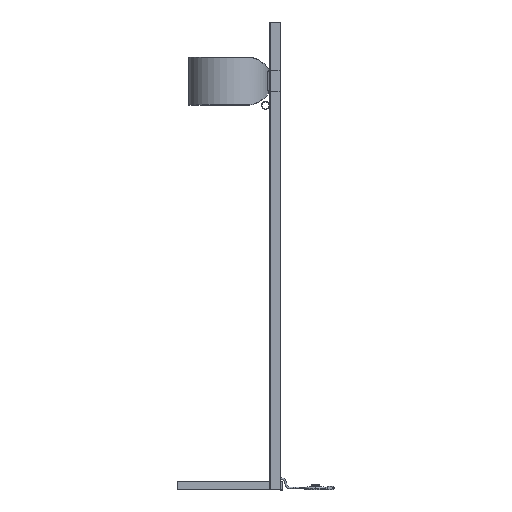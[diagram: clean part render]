
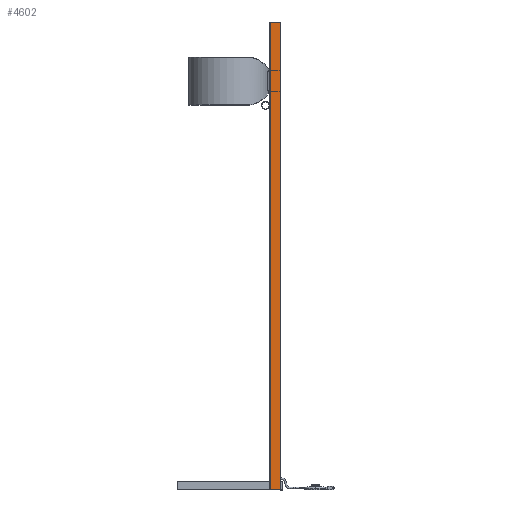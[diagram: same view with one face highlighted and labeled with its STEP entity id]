
A CAD part, left-side view. The second image highlights one B-rep face of the part: STEP entity #4602.
In plain terms, the highlighted planar face has unit normal (-1, 0, 0).
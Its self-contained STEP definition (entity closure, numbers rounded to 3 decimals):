
#266=PLANE('',#4935);
#464=FACE_OUTER_BOUND('',#749,.T.);
#749=EDGE_LOOP('',(#3445,#3446,#3447,#3448,#3449));
#1067=LINE('',#8821,#1422);
#1077=LINE('',#8841,#1432);
#1110=LINE('',#8905,#1465);
#1111=LINE('',#8907,#1466);
#1112=LINE('',#8908,#1467);
#1422=VECTOR('',#5572,304.8);
#1432=VECTOR('',#5590,304.8);
#1465=VECTOR('',#5645,304.8);
#1466=VECTOR('',#5648,304.8);
#1467=VECTOR('',#5649,304.8);
#1990=VERTEX_POINT('',#8804);
#1996=VERTEX_POINT('',#8820);
#2000=VERTEX_POINT('',#8835);
#2002=VERTEX_POINT('',#8839);
#2022=VERTEX_POINT('',#8903);
#2505=EDGE_CURVE('',#1996,#1990,#1067,.T.);
#2515=EDGE_CURVE('',#2000,#2002,#1077,.T.);
#2548=EDGE_CURVE('',#1990,#2022,#1110,.T.);
#2549=EDGE_CURVE('',#2000,#2022,#1111,.T.);
#2550=EDGE_CURVE('',#1996,#2002,#1112,.T.);
#3445=ORIENTED_EDGE('',*,*,#2549,.F.);
#3446=ORIENTED_EDGE('',*,*,#2515,.T.);
#3447=ORIENTED_EDGE('',*,*,#2550,.F.);
#3448=ORIENTED_EDGE('',*,*,#2505,.T.);
#3449=ORIENTED_EDGE('',*,*,#2548,.T.);
#4602=ADVANCED_FACE('',(#464),#266,.T.);
#4935=AXIS2_PLACEMENT_3D('',#8906,#5646,#5647);
#5572=DIRECTION('',(0.,0.,1.));
#5590=DIRECTION('',(0.,0.,-1.));
#5645=DIRECTION('',(0.,0.,1.));
#5646=DIRECTION('center_axis',(-1.,0.,0.));
#5647=DIRECTION('ref_axis',(0.,0.,-1.));
#5648=DIRECTION('',(0.,-1.,0.));
#5649=DIRECTION('',(0.,1.,0.));
#8804=CARTESIAN_POINT('',(-6.5,0.,30.));
#8820=CARTESIAN_POINT('',(-6.5,0.,0.));
#8821=CARTESIAN_POINT('',(-6.5,0.,0.));
#8835=CARTESIAN_POINT('',(-6.5,40.,1750.));
#8839=CARTESIAN_POINT('',(-6.5,40.,0.));
#8841=CARTESIAN_POINT('',(-6.5,40.,1750.));
#8903=CARTESIAN_POINT('',(-6.5,0.,1750.));
#8905=CARTESIAN_POINT('',(-6.5,0.,30.));
#8906=CARTESIAN_POINT('Origin',(-6.5,40.,1750.));
#8907=CARTESIAN_POINT('',(-6.5,40.,1750.));
#8908=CARTESIAN_POINT('',(-6.5,0.,0.));
